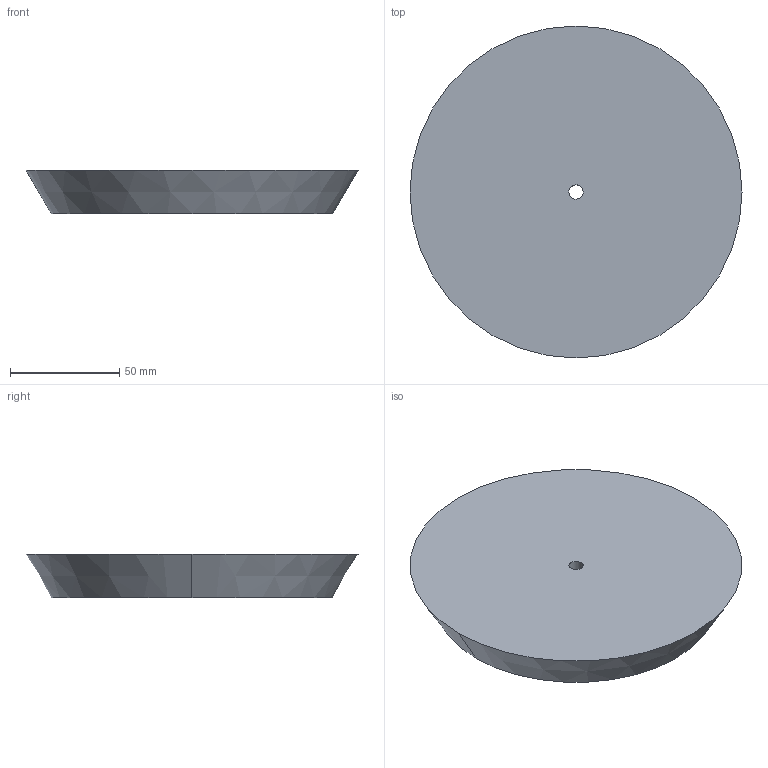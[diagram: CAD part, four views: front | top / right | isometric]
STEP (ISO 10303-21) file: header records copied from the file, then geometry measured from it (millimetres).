
FILE_DESCRIPTION(('CATIA V5 STEP Exchange'),'2;1');
FILE_NAME('C:\Users\andres.garcia\OneDrive - IQS\ASIGNATURAS\DAO\Controles\2223\c0\c1-OLIVERAS_Daniela-tapon.stp','2023-02-03T08:22:06+00:00',('none'),('none'),'CATIA Version 5-6 Release 2013 SP6','CATIA V5 STEP AP203','none');
FILE_SCHEMA(('CONFIG_CONTROL_DESIGN'));
Length unit declared in the file: millimetre
Products named in the file (1): c1-OLIVERAS_Daniela-tapon
Bounding box: 152 x 152 x 20 mm (x, y, z)
Volume: 309906.1 mm3; surface area: 41728.8 mm2
Topology: 1 solids, 1 shells, 6 faces, 12 edges, 8 vertices
Faces by surface type: cylinder 2, plane 2, cone 2
Entity records: 196 total; most frequent: CARTESIAN_POINT 26, ORIENTED_EDGE 24, DIRECTION 22, AXIS2_PLACEMENT_3D 14, EDGE_CURVE 12, CIRCLE 8, EDGE_LOOP 8, VERTEX_POINT 8
